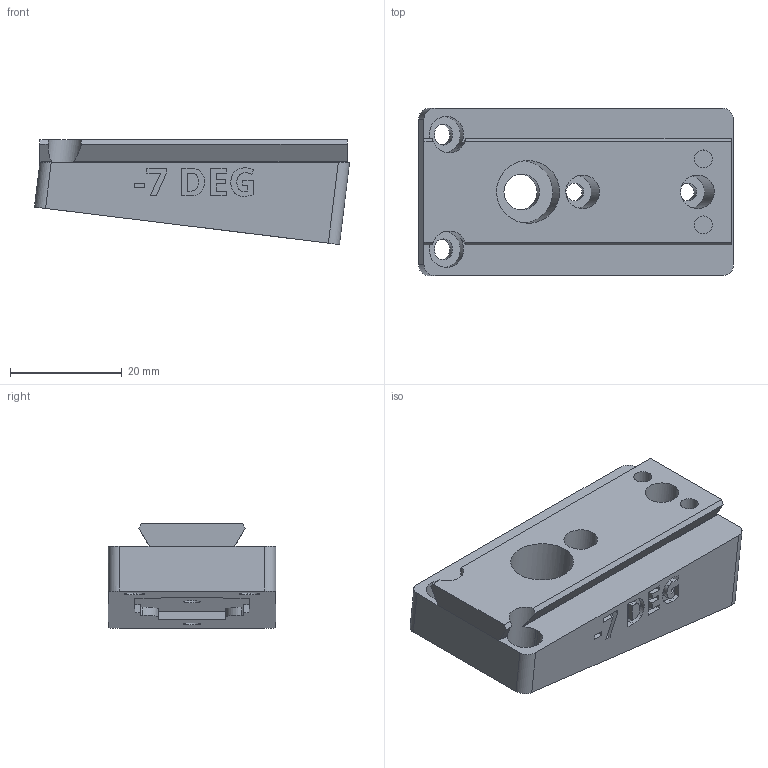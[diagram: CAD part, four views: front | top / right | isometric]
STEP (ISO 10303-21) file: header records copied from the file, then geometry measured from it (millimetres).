
FILE_DESCRIPTION(/* description */ ('STEP AP242 Edition 2','CAx-IF Rec.Pracs.---Representation and Presentation of Product Manufacturing Information (PMI)---4.0---2014-10-13','CAx-IF Rec.Pracs.---3D Tessellated Geometry---0.4---2014-09-14','2;1','CAx-IF Rec.Pracs.---User Defined Attributes---1.5---2016-08-15'),/* implementation_level */ '2;1');
FILE_NAME(/* name */ 'Camera Wedges - CAMERA MOUNTING WEDGE, NEG, -7 DEG',/* time_stamp */ '2026-08-11T00:11:26Z',/* author */ (''),/* organization */ (''),/* preprocessor_version */ 'ST-DEVELOPER v20',/* originating_system */ 'ONSHAPE BY PTC INC, 1.219',/* authorisation */ ' ');
FILE_SCHEMA (('AP242_MANAGED_MODEL_BASED_3D_ENGINEERING_MIM_LF { 1 0 10303 442 3 1 4 }'));
Length unit declared in the file: metre
Products named in the file (1): CAMERA MOUNTING WEDGE, NEG, -7 DEG
Bounding box: 56.39 x 30 x 18.79 mm (x, y, z)
Volume: 19451 mm3; surface area: 7520.7 mm2
Topology: 1 solids, 1 shells, 197 faces, 529 edges, 352 vertices
Faces by surface type: plane 133, cylinder 36, bspline 28
Full cylindrical faces by diameter (mm): 3.2 x4, 6 x2, 6.4 x1, 11.2 x1
Entity records: 6225 total; most frequent: CARTESIAN_POINT 1379, ORIENTED_EDGE 1042, DIRECTION 889, EDGE_CURVE 521, LINE 381, VECTOR 381, VERTEX_POINT 352, AXIS2_PLACEMENT_3D 254
